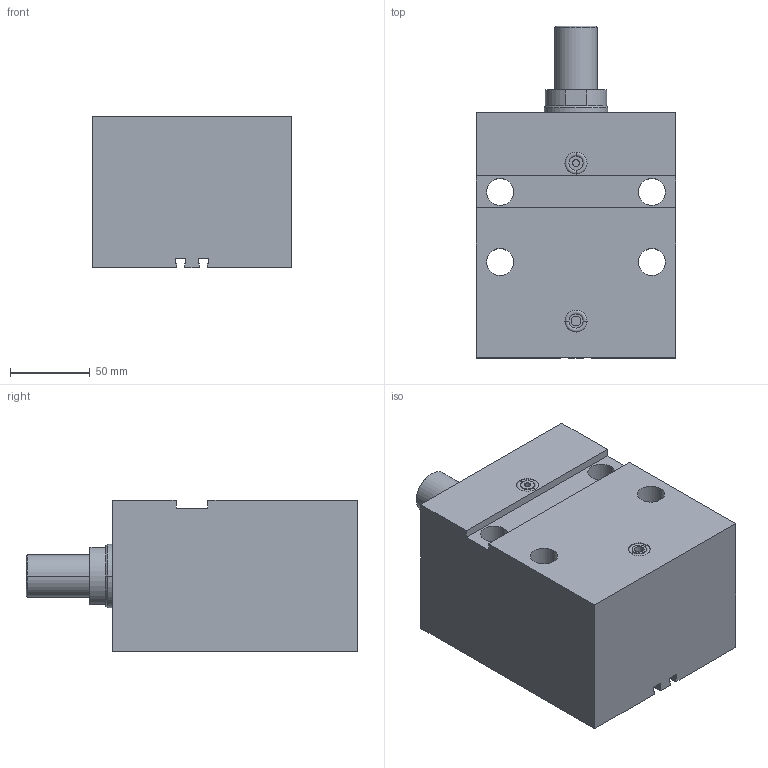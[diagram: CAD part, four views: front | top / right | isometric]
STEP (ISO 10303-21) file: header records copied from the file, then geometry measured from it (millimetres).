
FILE_DESCRIPTION (( 'STEP AP203' ), '1' );
FILE_NAME ('GERMA_Blockzylinder_704-063-063-A.STEP', '2016-07-26T09:46:41', ( '' ), ( '' ), 'SwSTEP 2.0', 'SolidWorks 2015', '' );
FILE_SCHEMA (( 'CONFIG_CONTROL_DESIGN' ));
Length unit declared in the file: millimetre
Products named in the file (3): GH-700-063_GH-704-063-063; Kolben_MT 70x-063_Kolben_MT DU.63-Hub63-AG; GERMA_Blockzylinder_704-063-063-A
Assembly tree (2 placements, depth 2):
  GERMA_Blockzylinder_704-063-063-A
    GH-700-063_GH-704-063-063
    Kolben_MT 70x-063_Kolben_MT DU.63-Hub63-AG
Bounding box: 125 x 208 x 95 mm (x, y, z)
Volume: 1642627 mm3; surface area: 174373.3 mm2
Topology: 2 solids, 2 shells, 100 faces, 232 edges, 145 vertices
Faces by surface type: plane 43, cylinder 41, cone 12, torus 4
Entity records: 3142 total; most frequent: DIRECTION 535, CARTESIAN_POINT 478, ORIENTED_EDGE 456, EDGE_CURVE 228, AXIS2_PLACEMENT_3D 202, VERTEX_POINT 145, VECTOR 131, LINE 131
